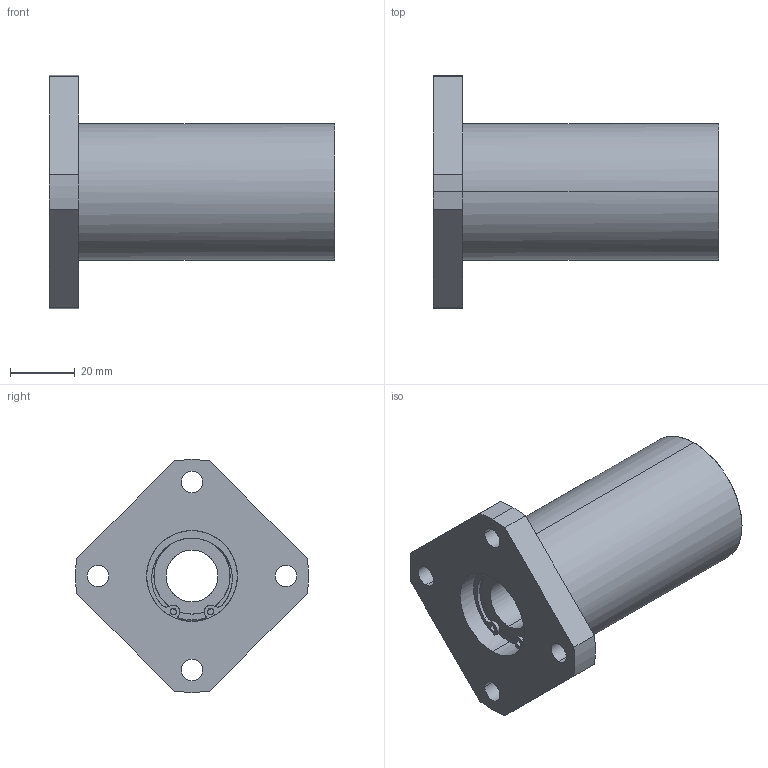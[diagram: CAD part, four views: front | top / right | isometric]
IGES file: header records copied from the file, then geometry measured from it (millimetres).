
Global section: file name: No Iges File Name specified; native system: AutoDesk Inventor R10; preprocessor: AutoDesk Inventor Iges Exporter R10; author: No Author specified; organization: No Organization specified; date: 20101214.135736; units: millimetre
Bounding box: 88 x 71.91 x 72 mm (x, y, z)
Surface area: 26718.5 mm2 (no closed solid volume)
Topology: 0 solids, 0 shells, 119 faces, 856 edges, 856 vertices
Faces by surface type: bspline 119
